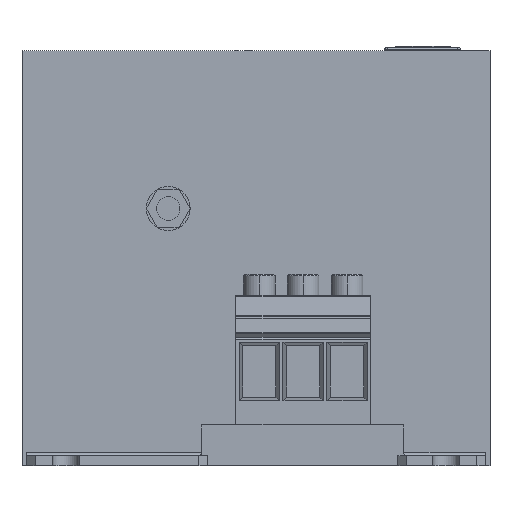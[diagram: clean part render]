
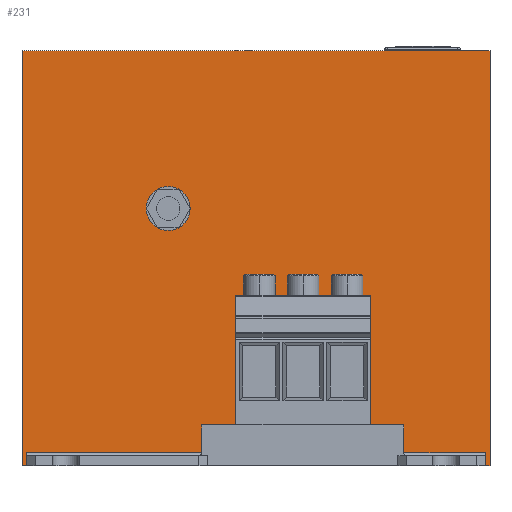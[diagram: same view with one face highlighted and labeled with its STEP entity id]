
A CAD part, front view. The second image highlights one B-rep face of the part: STEP entity #231.
In plain terms, the highlighted planar face has unit normal (0, -1, 0).
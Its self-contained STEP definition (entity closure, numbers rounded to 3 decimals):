
#2 = DIRECTION ( 'NONE',  ( 1., 0., 0. ) ) ;
#20 = AXIS2_PLACEMENT_3D ( 'NONE', #6335, #2405, #7579 ) ;
#144 = CARTESIAN_POINT ( 'NONE',  ( 78.3, -198.5, 4.51 ) ) ;
#161 = EDGE_CURVE ( 'NONE', #320, #2710, #8204, .T. ) ;
#231 = ADVANCED_FACE ( 'NONE', ( #1272, #496 ), #8442, .T. ) ;
#320 = VERTEX_POINT ( 'NONE', #7647 ) ;
#337 = EDGE_CURVE ( 'NONE', #5671, #1338, #2518, .T. ) ;
#379 = VECTOR ( 'NONE', #1475, 1000. ) ;
#406 = VERTEX_POINT ( 'NONE', #656 ) ;
#430 = ORIENTED_EDGE ( 'NONE', *, *, #5261, .F. ) ;
#462 = CARTESIAN_POINT ( 'NONE',  ( -78.5, -198.5, -235.646 ) ) ;
#471 = EDGE_CURVE ( 'NONE', #4176, #5497, #5511, .T. ) ;
#496 = FACE_OUTER_BOUND ( 'NONE', #6899, .T. ) ;
#634 = VERTEX_POINT ( 'NONE', #4338 ) ;
#650 = LINE ( 'NONE', #144, #6009 ) ;
#651 = CARTESIAN_POINT ( 'NONE',  ( -6.874, -198.5, -235.646 ) ) ;
#656 = CARTESIAN_POINT ( 'NONE',  ( 50.5, -198.5, 4.51 ) ) ;
#779 = EDGE_CURVE ( 'NONE', #5426, #3656, #1517, .T. ) ;
#871 = DIRECTION ( 'NONE',  ( -1., 0., 0. ) ) ;
#930 = ORIENTED_EDGE ( 'NONE', *, *, #5933, .F. ) ;
#1009 = CARTESIAN_POINT ( 'NONE',  ( -80., -198.5, 14.01 ) ) ;
#1216 = EDGE_CURVE ( 'NONE', #1635, #2322, #6965, .T. ) ;
#1272 = FACE_BOUND ( 'NONE', #3274, .T. ) ;
#1298 = LINE ( 'NONE', #5921, #4622 ) ;
#1312 = CARTESIAN_POINT ( 'NONE',  ( 39.126, -198.5, -235.646 ) ) ;
#1318 = CARTESIAN_POINT ( 'NONE',  ( 80., -198.5, -235.646 ) ) ;
#1325 = VECTOR ( 'NONE', #871, 1000. ) ;
#1338 = VERTEX_POINT ( 'NONE', #4577 ) ;
#1475 = DIRECTION ( 'NONE',  ( 0., 0., 1. ) ) ;
#1480 = VECTOR ( 'NONE', #3867, 1000. ) ;
#1515 = EDGE_CURVE ( 'NONE', #2710, #5671, #6312, .T. ) ;
#1517 = LINE ( 'NONE', #6728, #1325 ) ;
#1524 = CARTESIAN_POINT ( 'NONE',  ( 39.126, -198.5, 14.01 ) ) ;
#1635 = VERTEX_POINT ( 'NONE', #7933 ) ;
#1646 = AXIS2_PLACEMENT_3D ( 'NONE', #7815, #2599, #3705 ) ;
#1683 = EDGE_CURVE ( 'NONE', #3656, #2582, #1298, .T. ) ;
#1710 = ORIENTED_EDGE ( 'NONE', *, *, #7052, .F. ) ;
#1776 = VECTOR ( 'NONE', #7925, 1000. ) ;
#1931 = CARTESIAN_POINT ( 'NONE',  ( -80., -198.5, 142.01 ) ) ;
#1945 = ORIENTED_EDGE ( 'NONE', *, *, #471, .F. ) ;
#2015 = DIRECTION ( 'NONE',  ( -1., 0., 0. ) ) ;
#2081 = VECTOR ( 'NONE', #2015, 1000. ) ;
#2322 = VERTEX_POINT ( 'NONE', #8378 ) ;
#2405 = DIRECTION ( 'NONE',  ( 0., -1., 0. ) ) ;
#2406 = ORIENTED_EDGE ( 'NONE', *, *, #4847, .F. ) ;
#2445 = CARTESIAN_POINT ( 'NONE',  ( 80., -198.5, 142.01 ) ) ;
#2472 = ORIENTED_EDGE ( 'NONE', *, *, #5396, .F. ) ;
#2518 = LINE ( 'NONE', #7771, #5075 ) ;
#2549 = LINE ( 'NONE', #651, #1480 ) ;
#2582 = VERTEX_POINT ( 'NONE', #4278 ) ;
#2595 = EDGE_CURVE ( 'NONE', #1338, #8211, #8164, .T. ) ;
#2599 = DIRECTION ( 'NONE',  ( 0., -1., 0. ) ) ;
#2601 = CARTESIAN_POINT ( 'NONE',  ( -18.5, -198.5, 14.01 ) ) ;
#2710 = VERTEX_POINT ( 'NONE', #2601 ) ;
#3161 = VECTOR ( 'NONE', #3923, 1000. ) ;
#3274 = EDGE_LOOP ( 'NONE', ( #4088, #5526 ) ) ;
#3405 = VERTEX_POINT ( 'NONE', #2445 ) ;
#3500 = EDGE_CURVE ( 'NONE', #5426, #3405, #7176, .T. ) ;
#3520 = CARTESIAN_POINT ( 'NONE',  ( -30., -198.5, 88.01 ) ) ;
#3545 = DIRECTION ( 'NONE',  ( 0., 0., -1. ) ) ;
#3610 = DIRECTION ( 'NONE',  ( -1., 0., 0. ) ) ;
#3656 = VERTEX_POINT ( 'NONE', #5689 ) ;
#3705 = DIRECTION ( 'NONE',  ( 0., 0., -1. ) ) ;
#3867 = DIRECTION ( 'NONE',  ( 0., 0., -1. ) ) ;
#3923 = DIRECTION ( 'NONE',  ( 0., 0., 1. ) ) ;
#3946 = ORIENTED_EDGE ( 'NONE', *, *, #4583, .F. ) ;
#4044 = DIRECTION ( 'NONE',  ( -1., 0., 0. ) ) ;
#4088 = ORIENTED_EDGE ( 'NONE', *, *, #8314, .F. ) ;
#4161 = CARTESIAN_POINT ( 'NONE',  ( -30., -198.5, 95.51 ) ) ;
#4176 = VERTEX_POINT ( 'NONE', #7721 ) ;
#4278 = CARTESIAN_POINT ( 'NONE',  ( 78.5, -198.5, 4.51 ) ) ;
#4338 = CARTESIAN_POINT ( 'NONE',  ( -6.874, -198.5, 58.305 ) ) ;
#4390 = DIRECTION ( 'NONE',  ( 0., 0., -1. ) ) ;
#4429 = ORIENTED_EDGE ( 'NONE', *, *, #779, .F. ) ;
#4577 = CARTESIAN_POINT ( 'NONE',  ( -78.5, -198.5, 4.51 ) ) ;
#4583 = EDGE_CURVE ( 'NONE', #2322, #3405, #5868, .T. ) ;
#4622 = VECTOR ( 'NONE', #6687, 1000. ) ;
#4660 = VERTEX_POINT ( 'NONE', #4161 ) ;
#4681 = VECTOR ( 'NONE', #2, 1000. ) ;
#4769 = DIRECTION ( 'NONE',  ( 0., 0., -1. ) ) ;
#4785 = AXIS2_PLACEMENT_3D ( 'NONE', #3520, #4940, #4769 ) ;
#4847 = EDGE_CURVE ( 'NONE', #5497, #5695, #5771, .T. ) ;
#4935 = ORIENTED_EDGE ( 'NONE', *, *, #2595, .F. ) ;
#4940 = DIRECTION ( 'NONE',  ( 0., -1., 0. ) ) ;
#4997 = CARTESIAN_POINT ( 'NONE',  ( -80., -198.5, 14.01 ) ) ;
#5075 = VECTOR ( 'NONE', #4044, 1000. ) ;
#5261 = EDGE_CURVE ( 'NONE', #634, #320, #2549, .T. ) ;
#5277 = LINE ( 'NONE', #7882, #2081 ) ;
#5287 = ORIENTED_EDGE ( 'NONE', *, *, #337, .F. ) ;
#5384 = ORIENTED_EDGE ( 'NONE', *, *, #1216, .F. ) ;
#5396 = EDGE_CURVE ( 'NONE', #406, #4176, #6011, .T. ) ;
#5426 = VERTEX_POINT ( 'NONE', #7333 ) ;
#5461 = CARTESIAN_POINT ( 'NONE',  ( 50.5, -198.5, -235.646 ) ) ;
#5497 = VERTEX_POINT ( 'NONE', #1524 ) ;
#5511 = LINE ( 'NONE', #1009, #7473 ) ;
#5526 = ORIENTED_EDGE ( 'NONE', *, *, #6777, .F. ) ;
#5571 = VECTOR ( 'NONE', #6918, 1000. ) ;
#5640 = CIRCLE ( 'NONE', #20, 7.5 ) ;
#5671 = VERTEX_POINT ( 'NONE', #6779 ) ;
#5689 = CARTESIAN_POINT ( 'NONE',  ( 78.5, -198.5, 0. ) ) ;
#5695 = VERTEX_POINT ( 'NONE', #7474 ) ;
#5739 = CARTESIAN_POINT ( 'NONE',  ( -80., -198.5, -235.646 ) ) ;
#5771 = LINE ( 'NONE', #1312, #7494 ) ;
#5824 = CARTESIAN_POINT ( 'NONE',  ( -80., -198.5, 58.305 ) ) ;
#5868 = LINE ( 'NONE', #1931, #4681 ) ;
#5921 = CARTESIAN_POINT ( 'NONE',  ( 78.5, -198.5, -235.646 ) ) ;
#5933 = EDGE_CURVE ( 'NONE', #2582, #406, #650, .T. ) ;
#6009 = VECTOR ( 'NONE', #7937, 1000. ) ;
#6011 = LINE ( 'NONE', #5461, #379 ) ;
#6212 = ORIENTED_EDGE ( 'NONE', *, *, #1683, .F. ) ;
#6312 = LINE ( 'NONE', #7682, #6931 ) ;
#6335 = CARTESIAN_POINT ( 'NONE',  ( -30., -198.5, 88.01 ) ) ;
#6597 = ORIENTED_EDGE ( 'NONE', *, *, #3500, .T. ) ;
#6687 = DIRECTION ( 'NONE',  ( 0., 0., 1. ) ) ;
#6728 = CARTESIAN_POINT ( 'NONE',  ( -80., -198.5, 0. ) ) ;
#6777 = EDGE_CURVE ( 'NONE', #6861, #4660, #8458, .T. ) ;
#6779 = CARTESIAN_POINT ( 'NONE',  ( -18.5, -198.5, 4.51 ) ) ;
#6861 = VERTEX_POINT ( 'NONE', #8065 ) ;
#6899 = EDGE_LOOP ( 'NONE', ( #2472, #930, #6212, #4429, #6597, #3946, #5384, #7479, #4935, #5287, #7965, #8327, #430, #1710, #2406, #1945 ) ) ;
#6918 = DIRECTION ( 'NONE',  ( 0., 0., 1. ) ) ;
#6931 = VECTOR ( 'NONE', #4390, 1000. ) ;
#6965 = LINE ( 'NONE', #5739, #5571 ) ;
#6969 = VECTOR ( 'NONE', #7603, 1000. ) ;
#7052 = EDGE_CURVE ( 'NONE', #5695, #634, #7797, .T. ) ;
#7170 = DIRECTION ( 'NONE',  ( 0., 0., 1. ) ) ;
#7176 = LINE ( 'NONE', #1318, #3161 ) ;
#7239 = CARTESIAN_POINT ( 'NONE',  ( -78.5, -198.5, 0. ) ) ;
#7333 = CARTESIAN_POINT ( 'NONE',  ( 80., -198.5, 0. ) ) ;
#7473 = VECTOR ( 'NONE', #3610, 1000. ) ;
#7474 = CARTESIAN_POINT ( 'NONE',  ( 39.126, -198.5, 58.305 ) ) ;
#7479 = ORIENTED_EDGE ( 'NONE', *, *, #8206, .F. ) ;
#7494 = VECTOR ( 'NONE', #7170, 1000. ) ;
#7579 = DIRECTION ( 'NONE',  ( 0., 0., -1. ) ) ;
#7603 = DIRECTION ( 'NONE',  ( -1., 0., 0. ) ) ;
#7647 = CARTESIAN_POINT ( 'NONE',  ( -6.874, -198.5, 14.01 ) ) ;
#7682 = CARTESIAN_POINT ( 'NONE',  ( -18.5, -198.5, -235.646 ) ) ;
#7721 = CARTESIAN_POINT ( 'NONE',  ( 50.5, -198.5, 14.01 ) ) ;
#7771 = CARTESIAN_POINT ( 'NONE',  ( 78.3, -198.5, 4.51 ) ) ;
#7797 = LINE ( 'NONE', #5824, #1776 ) ;
#7815 = CARTESIAN_POINT ( 'NONE',  ( -80., -198.5, -235.646 ) ) ;
#7882 = CARTESIAN_POINT ( 'NONE',  ( -80., -198.5, 0. ) ) ;
#7918 = VECTOR ( 'NONE', #3545, 1000. ) ;
#7925 = DIRECTION ( 'NONE',  ( -1., 0., 0. ) ) ;
#7933 = CARTESIAN_POINT ( 'NONE',  ( -80., -198.5, 0. ) ) ;
#7937 = DIRECTION ( 'NONE',  ( -1., 0., 0. ) ) ;
#7965 = ORIENTED_EDGE ( 'NONE', *, *, #1515, .F. ) ;
#8065 = CARTESIAN_POINT ( 'NONE',  ( -30., -198.5, 80.51 ) ) ;
#8164 = LINE ( 'NONE', #462, #7918 ) ;
#8204 = LINE ( 'NONE', #4997, #6969 ) ;
#8206 = EDGE_CURVE ( 'NONE', #8211, #1635, #5277, .T. ) ;
#8211 = VERTEX_POINT ( 'NONE', #7239 ) ;
#8314 = EDGE_CURVE ( 'NONE', #4660, #6861, #5640, .T. ) ;
#8327 = ORIENTED_EDGE ( 'NONE', *, *, #161, .F. ) ;
#8378 = CARTESIAN_POINT ( 'NONE',  ( -80., -198.5, 142.01 ) ) ;
#8442 = PLANE ( 'NONE',  #1646 ) ;
#8458 = CIRCLE ( 'NONE', #4785, 7.5 ) ;
